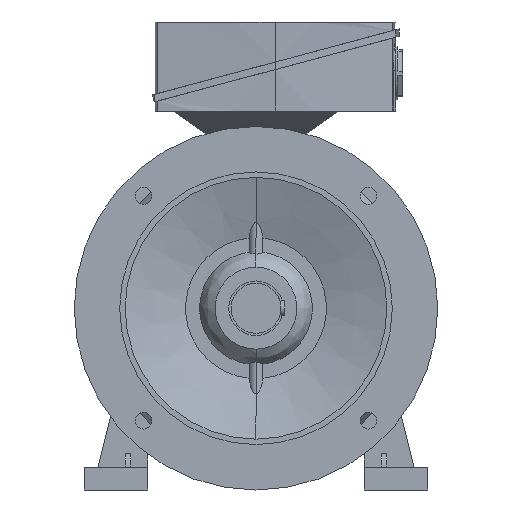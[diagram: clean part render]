
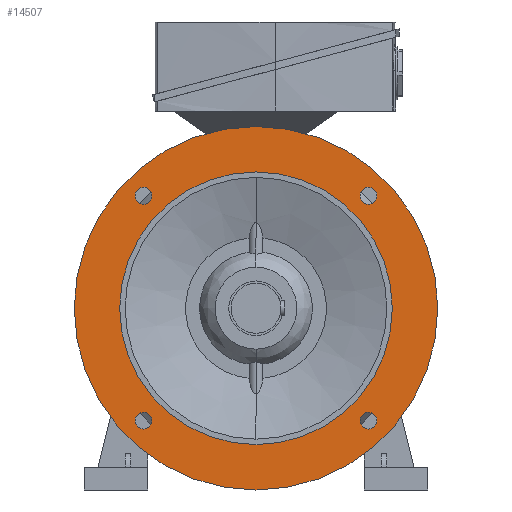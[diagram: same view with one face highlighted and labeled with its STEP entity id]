
A CAD part, left-side view. The second image highlights one B-rep face of the part: STEP entity #14507.
In plain terms, the highlighted planar face has unit normal (-1, 0, 0).
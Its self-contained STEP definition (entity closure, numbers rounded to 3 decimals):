
#2479 = VERTEX_POINT ( 'NONE', #17450 ) ;
#2490 = VERTEX_POINT ( 'NONE', #17488 ) ;
#3813 = FACE_BOUND ( 'NONE', #25633, .T. ) ;
#3815 = FACE_BOUND ( 'NONE', #25416, .T. ) ;
#3816 = FACE_BOUND ( 'NONE', #25619, .T. ) ;
#3819 = FACE_BOUND ( 'NONE', #25417, .T. ) ;
#3821 = FACE_OUTER_BOUND ( 'NONE', #25413, .T. ) ;
#3822 = FACE_BOUND ( 'NONE', #25418, .T. ) ;
#4526 = CIRCLE ( 'NONE', #6444, 200. ) ;
#5253 = PLANE ( 'NONE',  #30042 ) ;
#5255 = DIRECTION ( 'NONE',  ( -1., 0., 0. ) ) ;
#5260 = CARTESIAN_POINT ( 'NONE',  ( -87., 175., 0. ) ) ;
#5261 = DIRECTION ( 'NONE',  ( 0., 0., 1. ) ) ;
#6444 = AXIS2_PLACEMENT_3D ( 'NONE', #8467, #8468, #8469 ) ;
#6563 = AXIS2_PLACEMENT_3D ( 'NONE', #12469, #12470, #12471 ) ;
#6565 = AXIS2_PLACEMENT_3D ( 'NONE', #12560, #12561, #12562 ) ;
#6567 = AXIS2_PLACEMENT_3D ( 'NONE', #12568, #12569, #12570 ) ;
#6571 = AXIS2_PLACEMENT_3D ( 'NONE', #12642, #12643, #12644 ) ;
#6572 = AXIS2_PLACEMENT_3D ( 'NONE', #12646, #12647, #12648 ) ;
#6579 = AXIS2_PLACEMENT_3D ( 'NONE', #12761, #12762, #12763 ) ;
#6784 = AXIS2_PLACEMENT_3D ( 'NONE', #29867, #29868, #29870 ) ;
#6793 = AXIS2_PLACEMENT_3D ( 'NONE', #29997, #29998, #29999 ) ;
#8467 = CARTESIAN_POINT ( 'NONE',  ( -87., 0., 0. ) ) ;
#8468 = DIRECTION ( 'NONE',  ( 1., 0., 0. ) ) ;
#8469 = DIRECTION ( 'NONE',  ( 0., 0., 1. ) ) ;
#11147 = CIRCLE ( 'NONE', #6563, 9.25 ) ;
#11178 = CIRCLE ( 'NONE', #6565, 9.25 ) ;
#11190 = CIRCLE ( 'NONE', #6567, 9.25 ) ;
#11200 = CIRCLE ( 'NONE', #6571, 200. ) ;
#11211 = CIRCLE ( 'NONE', #6572, 9.25 ) ;
#11244 = CIRCLE ( 'NONE', #6579, 150. ) ;
#12469 = CARTESIAN_POINT ( 'NONE',  ( -87., 123.744, 123.744 ) ) ;
#12470 = DIRECTION ( 'NONE',  ( 1., 0., 0. ) ) ;
#12471 = DIRECTION ( 'NONE',  ( 0., 0., -1. ) ) ;
#12560 = CARTESIAN_POINT ( 'NONE',  ( -87., -123.744, 123.744 ) ) ;
#12561 = DIRECTION ( 'NONE',  ( 1., 0., 0. ) ) ;
#12562 = DIRECTION ( 'NONE',  ( 0., 0., -1. ) ) ;
#12568 = CARTESIAN_POINT ( 'NONE',  ( -87., -123.744, -123.744 ) ) ;
#12569 = DIRECTION ( 'NONE',  ( 1., 0., 0. ) ) ;
#12570 = DIRECTION ( 'NONE',  ( 0., 0., -1. ) ) ;
#12642 = CARTESIAN_POINT ( 'NONE',  ( -87., 0., 0. ) ) ;
#12643 = DIRECTION ( 'NONE',  ( 1., 0., 0. ) ) ;
#12644 = DIRECTION ( 'NONE',  ( 0., 0., 1. ) ) ;
#12646 = CARTESIAN_POINT ( 'NONE',  ( -87., 123.744, -123.744 ) ) ;
#12647 = DIRECTION ( 'NONE',  ( 1., 0., 0. ) ) ;
#12648 = DIRECTION ( 'NONE',  ( 0., 0., -1. ) ) ;
#12761 = CARTESIAN_POINT ( 'NONE',  ( -87., 0., 0. ) ) ;
#12762 = DIRECTION ( 'NONE',  ( 1., 0., 0. ) ) ;
#12763 = DIRECTION ( 'NONE',  ( 0., 0., 1. ) ) ;
#14507 = ADVANCED_FACE ( 'NONE', ( #3815, #3821, #3816, #3819, #3813, #3822 ), #5253, .T. ) ;
#17450 = CARTESIAN_POINT ( 'NONE',  ( -87., 0., -150. ) ) ;
#17488 = CARTESIAN_POINT ( 'NONE',  ( -87., 0., 150. ) ) ;
#18959 = EDGE_CURVE ( 'NONE', #22314, #22345, #4526, .T. ) ;
#20196 = CIRCLE ( 'NONE', #6784, 150. ) ;
#20271 = CIRCLE ( 'NONE', #6793, 9.25 ) ;
#20552 = EDGE_CURVE ( 'NONE', #22089, #22347, #11147, .T. ) ;
#20589 = EDGE_CURVE ( 'NONE', #22336, #22338, #11178, .T. ) ;
#20595 = EDGE_CURVE ( 'NONE', #22113, #34796, #11190, .T. ) ;
#20627 = EDGE_CURVE ( 'NONE', #22345, #22314, #11200, .T. ) ;
#20630 = EDGE_CURVE ( 'NONE', #22214, #32250, #11211, .T. ) ;
#20678 = EDGE_CURVE ( 'NONE', #2490, #2479, #11244, .T. ) ;
#20813 = CIRCLE ( 'NONE', #32167, 9.25 ) ;
#21819 = EDGE_CURVE ( 'NONE', #2479, #2490, #20196, .T. ) ;
#21850 = EDGE_CURVE ( 'NONE', #34796, #22113, #20271, .T. ) ;
#22089 = VERTEX_POINT ( 'NONE', #30375 ) ;
#22113 = VERTEX_POINT ( 'NONE', #30388 ) ;
#22214 = VERTEX_POINT ( 'NONE', #30444 ) ;
#22314 = VERTEX_POINT ( 'NONE', #30499 ) ;
#22336 = VERTEX_POINT ( 'NONE', #30511 ) ;
#22338 = VERTEX_POINT ( 'NONE', #30512 ) ;
#22345 = VERTEX_POINT ( 'NONE', #30516 ) ;
#22347 = VERTEX_POINT ( 'NONE', #30517 ) ;
#25413 = EDGE_LOOP ( 'NONE', ( #25746, #25744 ) ) ;
#25416 = EDGE_LOOP ( 'NONE', ( #25754, #25723 ) ) ;
#25417 = EDGE_LOOP ( 'NONE', ( #25767, #25771 ) ) ;
#25418 = EDGE_LOOP ( 'NONE', ( #25791, #25728 ) ) ;
#25619 = EDGE_LOOP ( 'NONE', ( #25768, #25773 ) ) ;
#25633 = EDGE_LOOP ( 'NONE', ( #25774, #25792 ) ) ;
#25723 = ORIENTED_EDGE ( 'NONE', *, *, #21819, .T. ) ;
#25728 = ORIENTED_EDGE ( 'NONE', *, *, #21850, .T. ) ;
#25744 = ORIENTED_EDGE ( 'NONE', *, *, #18959, .F. ) ;
#25746 = ORIENTED_EDGE ( 'NONE', *, *, #20627, .F. ) ;
#25754 = ORIENTED_EDGE ( 'NONE', *, *, #20678, .T. ) ;
#25767 = ORIENTED_EDGE ( 'NONE', *, *, #20552, .T. ) ;
#25768 = ORIENTED_EDGE ( 'NONE', *, *, #20589, .T. ) ;
#25771 = ORIENTED_EDGE ( 'NONE', *, *, #29080, .T. ) ;
#25773 = ORIENTED_EDGE ( 'NONE', *, *, #29084, .T. ) ;
#25774 = ORIENTED_EDGE ( 'NONE', *, *, #20630, .T. ) ;
#25791 = ORIENTED_EDGE ( 'NONE', *, *, #20595, .T. ) ;
#25792 = ORIENTED_EDGE ( 'NONE', *, *, #29075, .T. ) ;
#29075 = EDGE_CURVE ( 'NONE', #32250, #22214, #20813, .T. ) ;
#29080 = EDGE_CURVE ( 'NONE', #22347, #22089, #34075, .T. ) ;
#29084 = EDGE_CURVE ( 'NONE', #22338, #22336, #34076, .T. ) ;
#29867 = CARTESIAN_POINT ( 'NONE',  ( -87., 0., 0. ) ) ;
#29868 = DIRECTION ( 'NONE',  ( 1., 0., 0. ) ) ;
#29870 = DIRECTION ( 'NONE',  ( 0., 0., 1. ) ) ;
#29997 = CARTESIAN_POINT ( 'NONE',  ( -87., -123.744, -123.744 ) ) ;
#29998 = DIRECTION ( 'NONE',  ( 1., 0., 0. ) ) ;
#29999 = DIRECTION ( 'NONE',  ( 0., 0., -1. ) ) ;
#30042 = AXIS2_PLACEMENT_3D ( 'NONE', #5260, #5255, #5261 ) ;
#30375 = CARTESIAN_POINT ( 'NONE',  ( -87., 123.744, 114.494 ) ) ;
#30388 = CARTESIAN_POINT ( 'NONE',  ( -87., -123.744, -132.994 ) ) ;
#30444 = CARTESIAN_POINT ( 'NONE',  ( -87., 123.744, -132.994 ) ) ;
#30499 = CARTESIAN_POINT ( 'NONE',  ( -87., 0., -200. ) ) ;
#30511 = CARTESIAN_POINT ( 'NONE',  ( -87., -123.744, 114.494 ) ) ;
#30512 = CARTESIAN_POINT ( 'NONE',  ( -87., -123.744, 132.994 ) ) ;
#30516 = CARTESIAN_POINT ( 'NONE',  ( -87., 0., 200. ) ) ;
#30517 = CARTESIAN_POINT ( 'NONE',  ( -87., 123.744, 132.994 ) ) ;
#32167 = AXIS2_PLACEMENT_3D ( 'NONE', #33434, #33435, #33437 ) ;
#32170 = AXIS2_PLACEMENT_3D ( 'NONE', #33465, #33467, #33469 ) ;
#32173 = AXIS2_PLACEMENT_3D ( 'NONE', #33487, #33488, #33490 ) ;
#32250 = VERTEX_POINT ( 'NONE', #33706 ) ;
#33434 = CARTESIAN_POINT ( 'NONE',  ( -87., 123.744, -123.744 ) ) ;
#33435 = DIRECTION ( 'NONE',  ( 1., 0., 0. ) ) ;
#33437 = DIRECTION ( 'NONE',  ( 0., 0., -1. ) ) ;
#33465 = CARTESIAN_POINT ( 'NONE',  ( -87., 123.744, 123.744 ) ) ;
#33467 = DIRECTION ( 'NONE',  ( 1., 0., 0. ) ) ;
#33469 = DIRECTION ( 'NONE',  ( 0., 0., -1. ) ) ;
#33487 = CARTESIAN_POINT ( 'NONE',  ( -87., -123.744, 123.744 ) ) ;
#33488 = DIRECTION ( 'NONE',  ( 1., 0., 0. ) ) ;
#33490 = DIRECTION ( 'NONE',  ( 0., 0., -1. ) ) ;
#33706 = CARTESIAN_POINT ( 'NONE',  ( -87., 123.744, -114.494 ) ) ;
#33796 = CARTESIAN_POINT ( 'NONE',  ( -87., -123.744, -114.494 ) ) ;
#34075 = CIRCLE ( 'NONE', #32170, 9.25 ) ;
#34076 = CIRCLE ( 'NONE', #32173, 9.25 ) ;
#34796 = VERTEX_POINT ( 'NONE', #33796 ) ;
